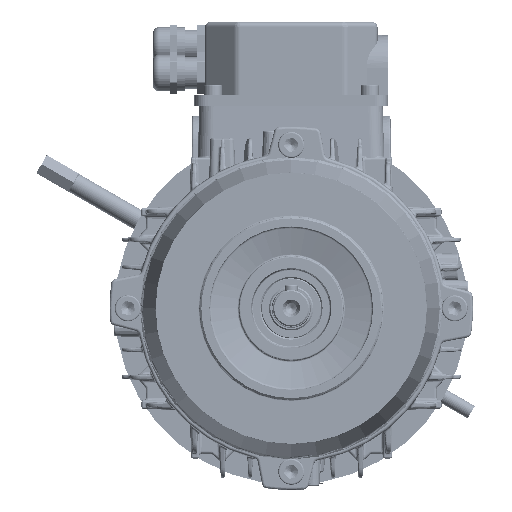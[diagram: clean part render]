
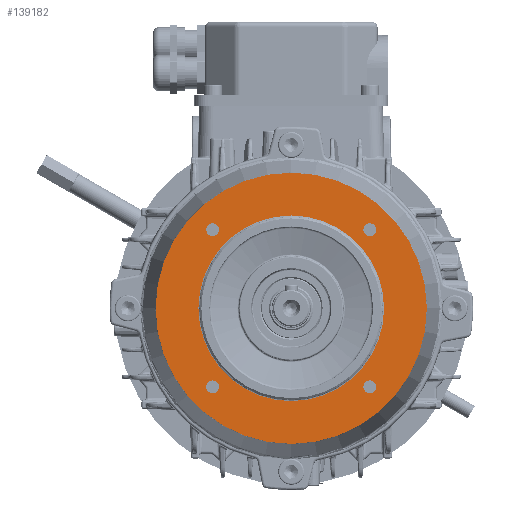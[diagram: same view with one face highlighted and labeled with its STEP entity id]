
A CAD part, left-side view. The second image highlights one B-rep face of the part: STEP entity #139182.
In plain terms, the highlighted planar face has unit normal (-1, 0, 0).
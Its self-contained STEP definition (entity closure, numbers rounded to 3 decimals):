
#9306=PLANE('',#148200);
#11803=FACE_BOUND('',#21826,.T.);
#11804=FACE_BOUND('',#21827,.T.);
#11805=FACE_BOUND('',#21828,.T.);
#11806=FACE_BOUND('',#21829,.T.);
#11807=FACE_BOUND('',#21830,.T.);
#13012=FACE_OUTER_BOUND('',#21825,.T.);
#21825=EDGE_LOOP('',(#90255));
#21826=EDGE_LOOP('',(#90256));
#21827=EDGE_LOOP('',(#90257));
#21828=EDGE_LOOP('',(#90258));
#21829=EDGE_LOOP('',(#90259));
#21830=EDGE_LOOP('',(#90260));
#30262=CIRCLE('',#148194,35.5);
#30267=CIRCLE('',#148201,51.866);
#30268=CIRCLE('',#148202,2.459);
#30269=CIRCLE('',#148203,2.459);
#30270=CIRCLE('',#148204,2.459);
#30271=CIRCLE('',#148205,2.459);
#55226=VERTEX_POINT('',#206262);
#55230=VERTEX_POINT('',#206274);
#55231=VERTEX_POINT('',#206276);
#55232=VERTEX_POINT('',#206278);
#55233=VERTEX_POINT('',#206280);
#55234=VERTEX_POINT('',#206282);
#68077=EDGE_CURVE('',#55226,#55226,#30262,.T.);
#68083=EDGE_CURVE('',#55230,#55230,#30267,.T.);
#68084=EDGE_CURVE('',#55231,#55231,#30268,.T.);
#68085=EDGE_CURVE('',#55232,#55232,#30269,.T.);
#68086=EDGE_CURVE('',#55233,#55233,#30270,.T.);
#68087=EDGE_CURVE('',#55234,#55234,#30271,.T.);
#90255=ORIENTED_EDGE('',*,*,#68083,.F.);
#90256=ORIENTED_EDGE('',*,*,#68084,.T.);
#90257=ORIENTED_EDGE('',*,*,#68085,.T.);
#90258=ORIENTED_EDGE('',*,*,#68086,.T.);
#90259=ORIENTED_EDGE('',*,*,#68087,.T.);
#90260=ORIENTED_EDGE('',*,*,#68077,.F.);
#139182=ADVANCED_FACE('',(#13012,#11803,#11804,#11805,#11806,#11807),#9306,
 .F.);
#148194=AXIS2_PLACEMENT_3D('',#206263,#166226,#166227);
#148200=AXIS2_PLACEMENT_3D('',#206273,#166239,#166240);
#148201=AXIS2_PLACEMENT_3D('',#206275,#166241,#166242);
#148202=AXIS2_PLACEMENT_3D('',#206277,#166243,#166244);
#148203=AXIS2_PLACEMENT_3D('',#206279,#166245,#166246);
#148204=AXIS2_PLACEMENT_3D('',#206281,#166247,#166248);
#148205=AXIS2_PLACEMENT_3D('',#206283,#166249,#166250);
#166226=DIRECTION('center_axis',(-1.,0.,0.));
#166227=DIRECTION('ref_axis',(0.,0.,
-1.));
#166239=DIRECTION('center_axis',(1.,0.,0.));
#166240=DIRECTION('ref_axis',(0.,0.,
1.));
#166241=DIRECTION('center_axis',(1.,0.,0.));
#166242=DIRECTION('ref_axis',(0.,0.,
1.));
#166243=DIRECTION('center_axis',(1.,0.,0.));
#166244=DIRECTION('ref_axis',(0.,-1.,0.));
#166245=DIRECTION('center_axis',(1.,0.,0.));
#166246=DIRECTION('ref_axis',(0.,0.,
-1.));
#166247=DIRECTION('center_axis',(1.,0.,0.));
#166248=DIRECTION('ref_axis',(0.,1.,0.));
#166249=DIRECTION('center_axis',(1.,0.,0.));
#166250=DIRECTION('ref_axis',(0.,0.,
1.));
#206262=CARTESIAN_POINT('',(-154.5,0.,35.5));
#206263=CARTESIAN_POINT('Origin',(-154.5,0.,0.));
#206273=CARTESIAN_POINT('Origin',(-154.5,0.,47.747));
#206274=CARTESIAN_POINT('',(-154.5,0.,-51.866));
#206275=CARTESIAN_POINT('Origin',(-154.5,0.,0.));
#206276=CARTESIAN_POINT('',(-154.5,-27.594,30.052));
#206277=CARTESIAN_POINT('Origin',(-154.5,-30.052,30.052));
#206278=CARTESIAN_POINT('',(-154.5,-30.052,-27.594));
#206279=CARTESIAN_POINT('Origin',(-154.5,-30.052,-30.052));
#206280=CARTESIAN_POINT('',(-154.5,27.594,-30.052));
#206281=CARTESIAN_POINT('Origin',(-154.5,30.052,-30.052));
#206282=CARTESIAN_POINT('',(-154.5,30.052,27.594));
#206283=CARTESIAN_POINT('Origin',(-154.5,30.052,30.052));
